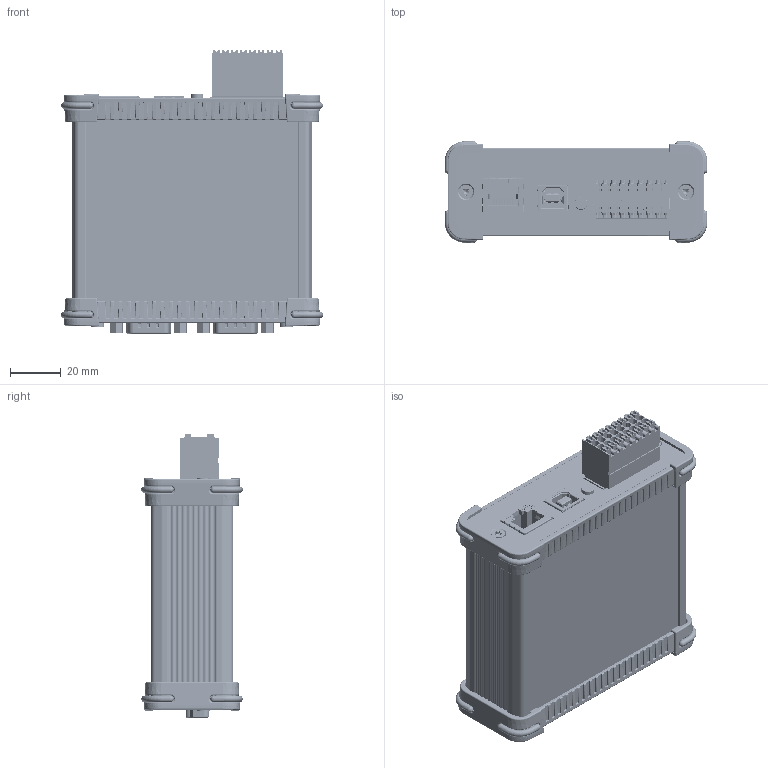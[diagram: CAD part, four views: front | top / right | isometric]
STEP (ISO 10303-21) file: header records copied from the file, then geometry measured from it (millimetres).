
FILE_DESCRIPTION (( 'STEP AP203' ), '1' );
FILE_NAME ('Zusammenbau Analog-Modul.STEP', '2018-10-17T14:09:39', ( '' ), ( '' ), 'SwSTEP 2.0', 'SolidWorks 2017', '' );
FILE_SCHEMA (( 'CONFIG_CONTROL_DESIGN' ));
Length unit declared in the file: millimetre
Products named in the file (24): Kunststoffabdeckung FR 94 32 signalblau; Kopie von Platine Analog-Modul.asm^Platine Analog-Modul; Platine Analog-Modul-16; Deckel R點k FR 94 32 80; Kopie von SubHD M15 print H.asm^Kopie von Platine Analog-Modul.asm_Platine Analog-Modul; TBlock 350 M08x2 print H-WM; Schraube Torx; Zusammenbau Analog-Modul; Deckel Front-16 FR 94 32 80; Kopie von Deckel Front-16 FR 94 32 80.asm^Deckel Front-16 FR 94 32 80; Platine Analog-Modul; screw; Basisprofil FR 94 32 80; Kopie von USB B print H.asm^Kopie von Platine Analog-Modul.asm_Platine Analog-Modul; Dichtung FR 94 32 grau; USB B print H; TBlock 350 F08x2 Kabel H-WM; Deckelplatte FR 94 32 R點k; SubHD M15 print H; Lichtleiter Mentor 1293_4000; MJ 8P8C TabUp print H Shield LED; Deckelplatte FR 94 32 Front-16; Kopie von MJ 8P8C TabUp print H Shield LED.asm^Kopie von Platine Analog-Modul.asm_Platine Analog-Modul; Kopie von Deckel Rück FR 94 32 80.asm^Deckel Rück FR 94 32 80
Assembly tree (36 placements, depth 5):
  Zusammenbau Analog-Modul
    Basisprofil FR 94 32 80
    Deckel Front-16 FR 94 32 80
      Kopie von Deckel Front-16 FR 94 32 80.asm^Deckel Front-16 FR 94 32 80
        Dichtung FR 94 32 grau
        Deckelplatte FR 94 32 Front-16
        Kunststoffabdeckung FR 94 32 signalblau  x2
        Schraube Torx  x2
        Lichtleiter Mentor 1293_4000
    Deckel R點k FR 94 32 80
      Kopie von Deckel Rück FR 94 32 80.asm^Deckel Rück FR 94 32 80
        Dichtung FR 94 32 grau
        Deckelplatte FR 94 32 R點k
        Kunststoffabdeckung FR 94 32 signalblau  x2
        Schraube Torx  x2
        Lichtleiter Mentor 1293_4000  x2
    Platine Analog-Modul
      Kopie von Platine Analog-Modul.asm^Platine Analog-Modul
        Platine Analog-Modul-16
        Kopie von SubHD M15 print H.asm^Kopie von Platine Analog-Modul.asm_Platine Analog-Modul  x2
          SubHD M15 print H
        Kopie von MJ 8P8C TabUp print H Shield LED.asm^Kopie von Platine Analog-Modul.asm_Platine Analog-Modul
          MJ 8P8C TabUp print H Shield LED
        Kopie von USB B print H.asm^Kopie von Platine Analog-Modul.asm_Platine Analog-Modul
          USB B print H
        TBlock 350 M08x2 print H-WM
    screw  x4
    TBlock 350 F08x2 Kabel H-WM
Bounding box: 102.9 x 39.83 x 111.15 mm (x, y, z)
Volume: 80188.2 mm3; surface area: 121636.2 mm2
Topology: 23 solids, 85 shells, 8094 faces, 24124 edges, 15830 vertices
Faces by surface type: plane 3844, cylinder 2815, bspline 560, cone 478, torus 277, sphere 120
Entity records: 184930 total; most frequent: CARTESIAN_POINT 45257, ORIENTED_EDGE 29214, DIRECTION 27103, EDGE_CURVE 15577, VERTEX_POINT 10318, LINE 10135, VECTOR 10135, AXIS2_PLACEMENT_3D 8484
